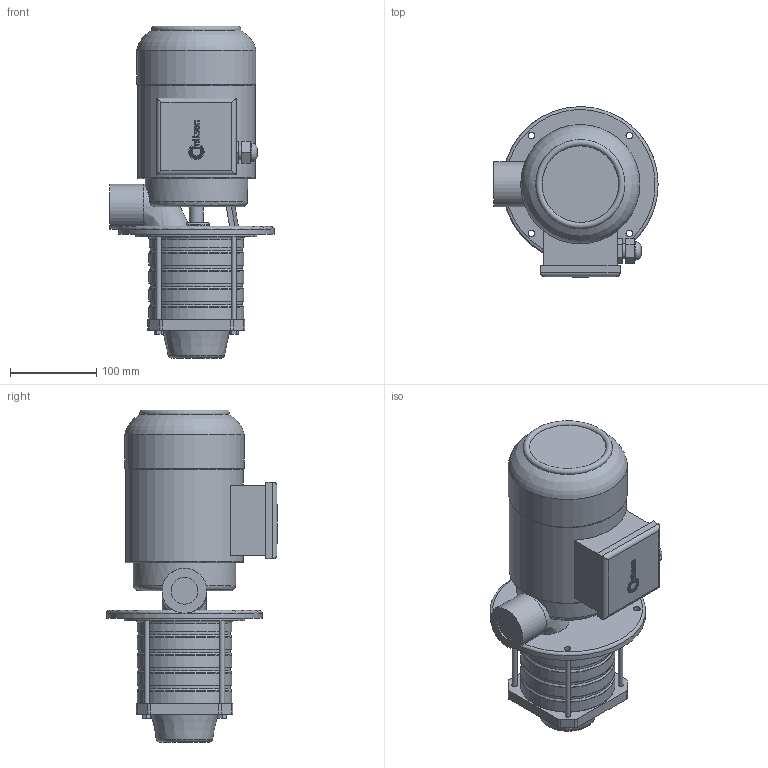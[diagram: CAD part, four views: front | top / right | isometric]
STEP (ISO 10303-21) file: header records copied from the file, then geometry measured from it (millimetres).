
FILE_DESCRIPTION(/* description */ ('Unknown'),/* implementation_level */ '2;1');
FILE_NAME(/* name */ 'hda02',/* time_stamp */ '2025-06-17T14:57:20+03:00',/* author */ ('Unknown'),/* organization */ ('Unknown'),/* preprocessor_version */ 'ST-DEVELOPER v16.7',/* originating_system */ 'DEX',/* authorisation */ $);
FILE_SCHEMA (('AUTOMOTIVE_DESIGN {1 0 10303 214 3 1 1}'));
Length unit declared in the file: millimetre
Products named in the file (1): hda02
Bounding box: 190 x 197.5 x 384.06 mm (x, y, z)
Volume: 4782336.5 mm3; surface area: 255650.7 mm2
Topology: 1 solids, 1 shells, 245 faces, 613 edges, 403 vertices
Faces by surface type: plane 106, bspline 67, cylinder 48, torus 18, cone 6
Full cylindrical faces by diameter (mm): 6 x4, 7.5 x4, 16.3 x1, 17 x1, 21.5 x1, 31 x1, 52 x1, 106.5 x4, 109.25 x1, 109.6 x4, 118.6 x1, 136.186 x1, 137.994 x1, 139.6 x1, 180 x1
Entity records: 9452 total; most frequent: CARTESIAN_POINT 4193, ORIENTED_EDGE 1102, DIRECTION 873, EDGE_CURVE 551, VERTEX_POINT 389, EDGE_LOOP 346, FACE_BOUND 346, AXIS2_PLACEMENT_3D 295
